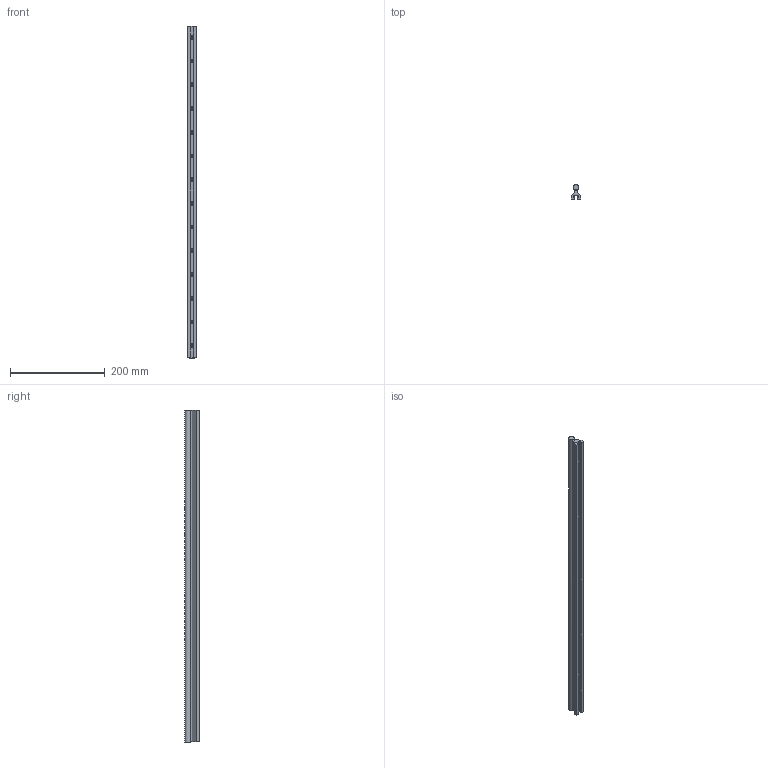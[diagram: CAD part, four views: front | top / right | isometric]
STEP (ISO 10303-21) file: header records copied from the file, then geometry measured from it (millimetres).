
FILE_DESCRIPTION (( 'STEP AP203' ), '1' );
FILE_NAME ('LFS-12-11_-_LFS-12-11 L=698 - ArtNr 220002 0698.step', '2015-05-04T10:55:14', ( '' ), ( '' ), 'SwSTEP 2.0', 'SolidWorks 2014', '' );
FILE_SCHEMA (( 'CONFIG_CONTROL_DESIGN' ));
Length unit declared in the file: millimetre
Products named in the file (1): LFS-12-11_-_LFS-12-11 L=698 - ArtNr 220002 0698
Bounding box: 20 x 31 x 700 mm (x, y, z)
Volume: 211321.8 mm3; surface area: 94871.5 mm2
Topology: 1 solids, 1 shells, 508 faces, 1368 edges, 874 vertices
Faces by surface type: plane 241, cylinder 239, cone 14, torus 14
Full cylindrical faces by diameter (mm): 7 x14, 8 x14, 12 x1
Entity records: 16360 total; most frequent: CARTESIAN_POINT 4764, ORIENTED_EDGE 2564, DIRECTION 2109, EDGE_CURVE 1282, VERTEX_POINT 845, AXIS2_PLACEMENT_3D 710, VECTOR 689, LINE 689
